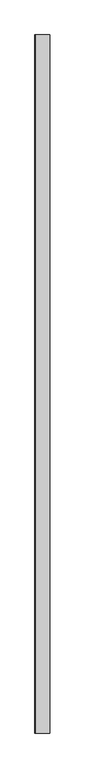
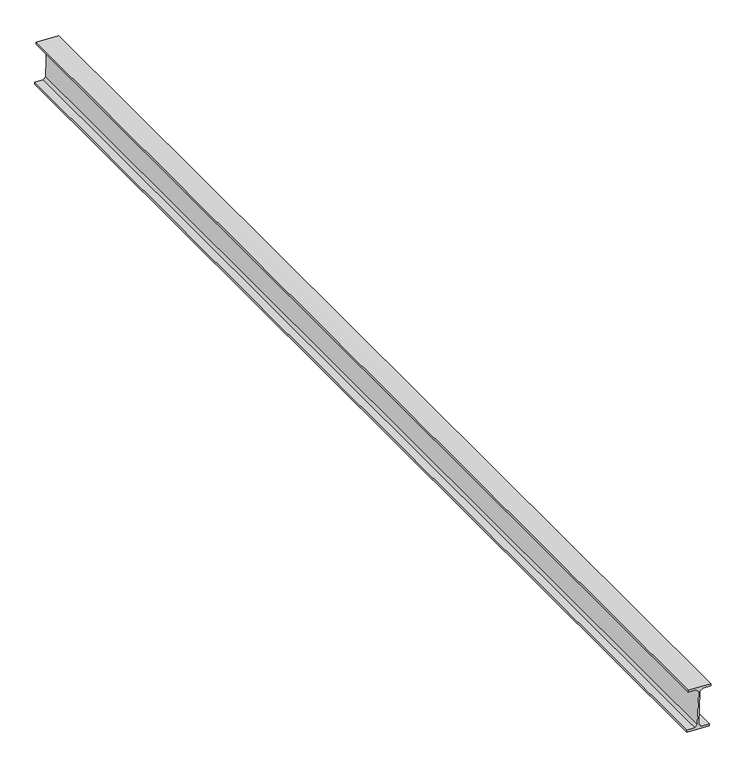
"""IFC4 building model written with IfcOpenShell, lengths in millimetres: beam geometry, Panne 6393 : Panne 6393."""

import ifcopenshell
import ifcopenshell.guid

model = None  # the IFC model being written
_history = None  # IfcOwnerHistory: only IFC2X3 demands one
_inside = {}  # id of a spatial element -> (the spatial element, [elements in it])
_under = {}  # id of a project, library or spatial element -> (it, [spatial elements below it])
_declared = {}  # id of a project -> (the project, [libraries it declares])
_typed = {}  # id of a type object -> (the type object, [elements of that type])
_made_of = {}  # id of a material, layer set ... -> (it, [elements and type objects made of it])


def new_model(schema):
    """Start an empty IFC model of exactly this schema.

    Asked for "IFC4X3", IfcOpenShell would pick the latest addendum, in which some entities
    have other attributes; the version numbers below select the first issue.
    IFC2X3 requires an IfcOwnerHistory on every rooted entity: one is made here for all.
    """
    global model, _history
    if schema == "IFC4X3":
        model = ifcopenshell.file(schema_version=(4, 3, 0, 0))
    else:
        model = ifcopenshell.file(schema=schema)
    _inside.clear()
    _under.clear()
    _declared.clear()
    _typed.clear()
    _made_of.clear()
    _history = None
    if model.schema == "IFC2X3":
        org = make("IfcOrganization", Name="unknown")
        user = make(
            "IfcPersonAndOrganization",
            ThePerson=make("IfcPerson", FamilyName="unknown"),
            TheOrganization=org,
        )
        app = make(
            "IfcApplication",
            ApplicationDeveloper=org,
            Version="unknown",
            ApplicationFullName="unknown",
            ApplicationIdentifier="unknown",
        )
        _history = make(
            "IfcOwnerHistory",
            OwningUser=user,
            OwningApplication=app,
            ChangeAction="ADDED",
            CreationDate=0,
        )
    return model


def make(cls, **values):
    """One entity of the class cls with the attributes given. An attribute that is None is left unset."""
    return model.create_entity(
        cls, **{name: value for name, value in values.items() if value is not None}
    )


def rooted(cls, **values):
    """An entity with a GlobalId (a new one), such as an element, a storey or a relation."""
    return make(cls, GlobalId=ifcopenshell.guid.new(), OwnerHistory=_history, **values)


def si_unit(unit_type, name, prefix=None):
    """IfcSIUnit, for example si_unit("LENGTHUNIT", "METRE", prefix="MILLI")."""
    return make("IfcSIUnit", UnitType=unit_type, Prefix=prefix, Name=name)


def assignment(units):
    """IfcUnitAssignment: the units of a project."""
    return None if units is None else make("IfcUnitAssignment", Units=units)


def point(xyz):
    """IfcCartesianPoint."""
    return None if xyz is None else make("IfcCartesianPoint", Coordinates=xyz)


def direction(xyz):
    """IfcDirection."""
    return None if xyz is None else make("IfcDirection", DirectionRatios=xyz)


def frame(location, z_axis=None, x_axis=None):
    """IfcAxis2Placement3D, a coordinate frame: its origin and axes. An axis left out is left unset."""
    return make(
        "IfcAxis2Placement3D",
        Location=point(location),
        Axis=direction(z_axis),
        RefDirection=direction(x_axis),
    )


def origin():
    """The frame at (0, 0, 0) with its axes left unset."""
    return frame((0.0, 0.0, 0.0))


def place(relative_to, where):
    """IfcLocalPlacement: puts the frame where relative to a parent placement (None: the world)."""
    return make(
        "IfcLocalPlacement", PlacementRelTo=relative_to, RelativePlacement=where
    )


def context(
    kind, dimensions, precision=None, world=None, true_north=None, identifier=None
):
    """IfcGeometricRepresentationContext, for example the 3D "Model" context."""
    return make(
        "IfcGeometricRepresentationContext",
        ContextIdentifier=identifier,
        ContextType=kind,
        CoordinateSpaceDimension=dimensions,
        Precision=precision,
        WorldCoordinateSystem=world,
        TrueNorth=true_north,
    )


def project(units=None, contexts=None):
    """IfcProject with its units and contexts."""
    return rooted(
        "IfcProject",
        Name="project",
        RepresentationContexts=contexts,
        UnitsInContext=assignment(units),
    )


def spatial(cls, under=None, at=None, **own):
    """A site, building, storey or space (cls), placed at a placement, below another one or the project."""
    s = rooted(cls, ObjectPlacement=at, **own)
    if under is not None:
        _under.setdefault(under.id(), (under, []))[1].append(s)
    return s


def polyline(points):
    """IfcPolyline through the points."""
    return make("IfcPolyline", Points=[point(p) for p in points])


def outline(outer, holes=None, kind="AREA"):
    """IfcArbitraryClosedProfileDef: a profile drawn as a closed curve; with holes, ...WithVoids."""
    if holes is None:
        return make("IfcArbitraryClosedProfileDef", ProfileType=kind, OuterCurve=outer)
    return make(
        "IfcArbitraryProfileDefWithVoids",
        ProfileType=kind,
        OuterCurve=outer,
        InnerCurves=holes,
    )


def extrude(swept, where, along, depth):
    """IfcExtrudedAreaSolid: the profile swept, set in the frame where, extruded along a direction by depth."""
    return make(
        "IfcExtrudedAreaSolid",
        SweptArea=swept,
        Position=where,
        ExtrudedDirection=direction(along),
        Depth=depth,
    )


def shape(context_of_items, identifier, shape_type, items):
    """IfcShapeRepresentation: the items that make up one representation, for example the "Body"."""
    return make(
        "IfcShapeRepresentation",
        ContextOfItems=context_of_items,
        RepresentationIdentifier=identifier,
        RepresentationType=shape_type,
        Items=items,
    )


def source(mapping_origin, context_of_items, identifier, shape_type, items):
    """IfcRepresentationMap: a shape defined once, which mapped items show again and again."""
    return make(
        "IfcRepresentationMap",
        MappingOrigin=mapping_origin,
        MappedRepresentation=shape(context_of_items, identifier, shape_type, items),
    )


def transform(
    local_origin,
    x_axis=None,
    y_axis=None,
    z_axis=None,
    scale=None,
    scale2=None,
    scale3=None,
    uniform=True,
):
    """IfcCartesianTransformationOperator3D, or its non-uniform kind. x_axis, y_axis, z_axis: its Axis1, 2, 3."""
    if uniform:
        return make(
            "IfcCartesianTransformationOperator3D",
            Axis1=direction(x_axis),
            Axis2=direction(y_axis),
            LocalOrigin=point(local_origin),
            Scale=scale,
            Axis3=direction(z_axis),
        )
    return make(
        "IfcCartesianTransformationOperator3DnonUniform",
        Axis1=direction(x_axis),
        Axis2=direction(y_axis),
        LocalOrigin=point(local_origin),
        Scale=scale,
        Axis3=direction(z_axis),
        Scale2=scale2,
        Scale3=scale3,
    )


def mapped(mapping_source, mapping_target):
    """IfcMappedItem: shows the shape of a source again, moved by a transform."""
    return make(
        "IfcMappedItem", MappingSource=mapping_source, MappingTarget=mapping_target
    )


def made_of(thing, what):
    """Note that an element or type object is made of a material, layer set ...; save() writes the relation."""
    if what is not None:
        _made_of.setdefault(what.id(), (what, []))[1].append(thing)
    return thing


def element(
    cls,
    number,
    at=None,
    inside=None,
    cuts=None,
    type_object=None,
    material=None,
    context=None,
    identifier="Body",
    shape_type=None,
    held_by="IfcProductDefinitionShape",
    body=None,
    shapes=None,
    **own,
):
    """One element of the class cls, such as IfcWall. Its Tag is "e" and its number.

    at: its placement. inside: the storey or other place that contains it. cuts: it is an
    opening in that element (IfcRelVoidsElement). A single representation is given by context,
    identifier, shape_type and body (its items); several are given by shapes. held_by: the class
    of the entity that holds the representations. save() writes the other relations.
    """
    e = rooted(cls, Tag="e%d" % number, ObjectPlacement=at, **own)
    if body is not None:
        shapes = [shape(context, identifier, shape_type, body)]
    if shapes is not None:
        e.Representation = make(held_by, Representations=shapes)
    if inside is not None:
        _inside.setdefault(inside.id(), (inside, []))[1].append(e)
    if cuts is not None:
        rooted(
            "IfcRelVoidsElement", RelatingBuildingElement=cuts, RelatedOpeningElement=e
        )
    if type_object is not None:
        _typed.setdefault(type_object.id(), (type_object, []))[1].append(e)
    return made_of(e, material)


def aggregate(whole, parts):
    """IfcRelAggregates: a whole, such as a stair, and the parts it consists of."""
    return rooted("IfcRelAggregates", RelatingObject=whole, RelatedObjects=parts)


def save(model, path):
    """Write the relations noted so far, then the file.

    IfcRelAggregates (storeys below a building ...), IfcRelContainedInSpatialStructure (elements
    in a storey), IfcRelDefinesByType, IfcRelAssociatesMaterial and IfcRelDeclares: one each for
    every whole, place, type object, material and project.
    """
    for whole, parts in _under.values():
        aggregate(whole, parts)
    for where, things in _inside.values():
        rooted(
            "IfcRelContainedInSpatialStructure",
            RelatedElements=things,
            RelatingStructure=where,
        )
    for kind, things in _typed.values():
        rooted("IfcRelDefinesByType", RelatedObjects=things, RelatingType=kind)
    for what, things in _made_of.values():
        rooted("IfcRelAssociatesMaterial", RelatedObjects=things, RelatingMaterial=what)
    for by, libraries in _declared.values():
        rooted("IfcRelDeclares", RelatingContext=by, RelatedDefinitions=libraries)
    model.write(path)


def beam_18f4dce0(model_context):
    return source(origin(), model_context, "Body", "SweptSolid", [
        extrude(outline(polyline([(7745.2945319, 3665.9285162), (7742.4262882, 3747.8783373), (7749.8217599, 3748.1371788), (7750.853628, 3718.6552309), (7760.1629278, 3709.9755456), (7887.2850893, 3714.4248213), (7895.9647747, 3723.7341211), (7894.9329065, 3753.2160689), (7902.3283781, 3753.4749104), (7905.1966219, 3671.5250893), (7897.8011502, 3671.2662478), (7896.769282, 3700.7481956), (7887.4599822, 3709.427881), (7760.3378207, 3704.9786053), (7751.6581354, 3695.6693055), (7752.6900036, 3666.1873577), (7745.2945319, 3665.9285162)])), frame((0.0, -8510.0, 0.0), z_axis=(0.0, 1.0, 0.0), x_axis=(0.0, 0.0, 1.0)), (0.0, 0.0, 1.0), 4120.0),
    ])


if __name__ == "__main__":
    model = new_model("IFC4")
    model_context = context("Model", 3, world=origin())
    ifc_project = project(units=[si_unit("LENGTHUNIT", "METRE", prefix="MILLI")], contexts=[model_context])
    site = spatial("IfcSite", under=ifc_project)
    building = spatial("IfcBuilding", under=site)
    placement = place(None, origin())
    beam_shape = beam_18f4dce0(model_context)
    element("IfcBeam", 1, ObjectType="Panne 6393 : Panne 6393", at=placement, inside=building, context=model_context, shape_type="MappedRepresentation", body=[
        mapped(beam_shape, transform((0.0, 0.0, 0.0), x_axis=(1.0, 0.0, 0.0), y_axis=(0.0, 1.0, 0.0), z_axis=(0.0, 0.0, 1.0))),
    ])
    save(model, "model.ifc")
